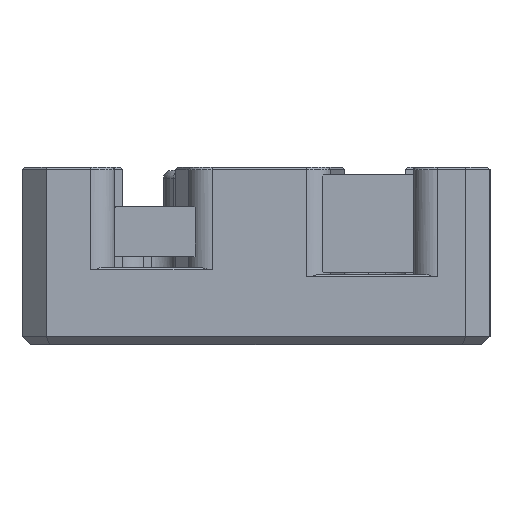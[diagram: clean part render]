
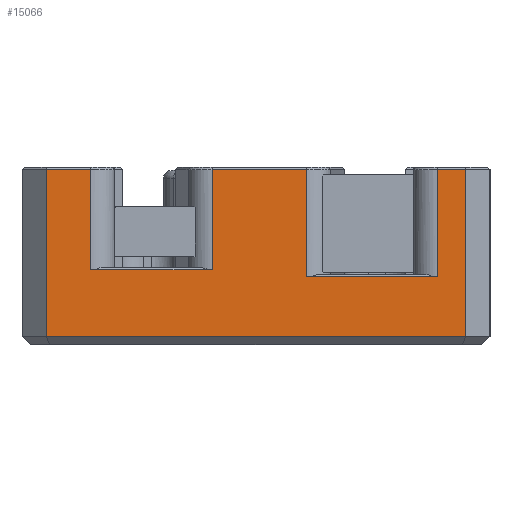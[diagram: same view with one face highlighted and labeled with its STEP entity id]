
A CAD part, left-side view. The second image highlights one B-rep face of the part: STEP entity #15066.
In plain terms, the highlighted planar face has unit normal (-1, 0, 0).
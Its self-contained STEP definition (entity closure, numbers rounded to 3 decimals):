
#199 = CARTESIAN_POINT ( 'NONE',  ( -24., 20.5, 9.3 ) ) ;
#216 = CARTESIAN_POINT ( 'NONE',  ( -24., -22.5, 21.7 ) ) ;
#258 = CARTESIAN_POINT ( 'NONE',  ( -24., 20.5, 21.7 ) ) ;
#260 = CARTESIAN_POINT ( 'NONE',  ( -24., -26., 21.7 ) ) ;
#388 = CARTESIAN_POINT ( 'NONE',  ( -24., -6.229, 21.7 ) ) ;
#1122 = DIRECTION ( 'NONE',  ( 0., -1., 0. ) ) ;
#1124 = CARTESIAN_POINT ( 'NONE',  ( -24., 29., 1. ) ) ;
#1252 = DIRECTION ( 'NONE',  ( 0., 0., -1. ) ) ;
#1254 = CARTESIAN_POINT ( 'NONE',  ( -24., 5.429, 22. ) ) ;
#1325 = DIRECTION ( 'NONE',  ( 0., 0., 1. ) ) ;
#1327 = CARTESIAN_POINT ( 'NONE',  ( -24., 20.5, 22. ) ) ;
#1415 = DIRECTION ( 'NONE',  ( 0., 0., -1. ) ) ;
#1419 = CARTESIAN_POINT ( 'NONE',  ( -24., -22.5, 22. ) ) ;
#1462 = DIRECTION ( 'NONE',  ( 0., 1., 0. ) ) ;
#1464 = CARTESIAN_POINT ( 'NONE',  ( -24., -22.5, 21.7 ) ) ;
#1649 = DIRECTION ( 'NONE',  ( 0., 1., 0. ) ) ;
#1651 = CARTESIAN_POINT ( 'NONE',  ( -24., -6.229, 8.4 ) ) ;
#1745 = DIRECTION ( 'NONE',  ( 0., 1., 0. ) ) ;
#1746 = CARTESIAN_POINT ( 'NONE',  ( -24., 5.429, 21.7 ) ) ;
#1797 = DIRECTION ( 'NONE',  ( 0., 0., 1. ) ) ;
#1799 = CARTESIAN_POINT ( 'NONE',  ( -24., -6.229, 22. ) ) ;
#2186 = DIRECTION ( 'NONE',  ( 0., 1., 0. ) ) ;
#2188 = DIRECTION ( 'NONE',  ( 1., 0., 0. ) ) ;
#2190 = CARTESIAN_POINT ( 'NONE',  ( -24., 29., 22. ) ) ;
#2192 = PLANE ( 'NONE',  #20791 ) ;
#2304 = DIRECTION ( 'NONE',  ( 0., 1., 0. ) ) ;
#2305 = CARTESIAN_POINT ( 'NONE',  ( -24., 29., 9.3 ) ) ;
#2517 = CARTESIAN_POINT ( 'NONE',  ( -24., 26., 1. ) ) ;
#2546 = CARTESIAN_POINT ( 'NONE',  ( -24., -6.229, 8.4 ) ) ;
#2580 = CARTESIAN_POINT ( 'NONE',  ( -24., 26., 21.7 ) ) ;
#2582 = CARTESIAN_POINT ( 'NONE',  ( -24., 5.429, 21.7 ) ) ;
#2587 = CARTESIAN_POINT ( 'NONE',  ( -24., -22.5, 8.4 ) ) ;
#2602 = CARTESIAN_POINT ( 'NONE',  ( -24., -26., 1. ) ) ;
#2619 = CARTESIAN_POINT ( 'NONE',  ( -24., 5.429, 9.3 ) ) ;
#4519 = DIRECTION ( 'NONE',  ( 0., 0., -1. ) ) ;
#4520 = CARTESIAN_POINT ( 'NONE',  ( -24., 26., 22. ) ) ;
#4623 = DIRECTION ( 'NONE',  ( 0., 0., 1. ) ) ;
#4624 = CARTESIAN_POINT ( 'NONE',  ( -24., -26., 22. ) ) ;
#4672 = DIRECTION ( 'NONE',  ( 0., 1., 0. ) ) ;
#4673 = CARTESIAN_POINT ( 'NONE',  ( -24., 26., 21.7 ) ) ;
#10961 = LINE ( 'NONE', #1254, #20871 ) ;
#11115 = LINE ( 'NONE', #1327, #20864 ) ;
#11146 = LINE ( 'NONE', #1799, #20817 ) ;
#11147 = LINE ( 'NONE', #1746, #20818 ) ;
#11169 = LINE ( 'NONE', #2305, #20790 ) ;
#11177 = LINE ( 'NONE', #1419, #20850 ) ;
#11269 = FACE_OUTER_BOUND ( 'NONE', #13193, .T. ) ;
#11314 = LINE ( 'NONE', #1464, #20843 ) ;
#11487 = LINE ( 'NONE', #1124, #20884 ) ;
#11527 = LINE ( 'NONE', #4520, #20663 ) ;
#11601 = LINE ( 'NONE', #4624, #20651 ) ;
#11618 = LINE ( 'NONE', #4673, #20642 ) ;
#11664 = LINE ( 'NONE', #1651, #20834 ) ;
#13193 = EDGE_LOOP ( 'NONE', ( #16635, #16629, #16632, #16627, #16625, #16623, #16621, #16619, #16617, #16615, #16614, #16611 ) ) ;
#14925 = EDGE_CURVE ( 'NONE', #16074, #16415, #11618, .T. ) ;
#14933 = EDGE_CURVE ( 'NONE', #16459, #16072, #11601, .T. ) ;
#14946 = EDGE_CURVE ( 'NONE', #16415, #16296, #11527, .T. ) ;
#15057 = EDGE_CURVE ( 'NONE', #16494, #16124, #11169, .T. ) ;
#15066 = ADVANCED_FACE ( 'NONE', ( #11269 ), #2192, .F. ) ;
#15086 = EDGE_CURVE ( 'NONE', #16349, #15973, #11146, .T. ) ;
#15088 = EDGE_CURVE ( 'NONE', #15973, #16418, #11147, .T. ) ;
#15100 = EDGE_CURVE ( 'NONE', #16427, #16349, #11664, .T. ) ;
#15111 = EDGE_CURVE ( 'NONE', #16072, #16108, #11314, .T. ) ;
#15117 = EDGE_CURVE ( 'NONE', #16108, #16427, #11177, .T. ) ;
#15128 = EDGE_CURVE ( 'NONE', #16124, #16074, #11115, .T. ) ;
#15137 = EDGE_CURVE ( 'NONE', #16418, #16494, #10961, .T. ) ;
#15150 = EDGE_CURVE ( 'NONE', #16296, #16459, #11487, .T. ) ;
#15973 = VERTEX_POINT ( 'NONE', #388 ) ;
#16072 = VERTEX_POINT ( 'NONE', #260 ) ;
#16074 = VERTEX_POINT ( 'NONE', #258 ) ;
#16108 = VERTEX_POINT ( 'NONE', #216 ) ;
#16124 = VERTEX_POINT ( 'NONE', #199 ) ;
#16296 = VERTEX_POINT ( 'NONE', #2517 ) ;
#16349 = VERTEX_POINT ( 'NONE', #2546 ) ;
#16415 = VERTEX_POINT ( 'NONE', #2580 ) ;
#16418 = VERTEX_POINT ( 'NONE', #2582 ) ;
#16427 = VERTEX_POINT ( 'NONE', #2587 ) ;
#16459 = VERTEX_POINT ( 'NONE', #2602 ) ;
#16494 = VERTEX_POINT ( 'NONE', #2619 ) ;
#16611 = ORIENTED_EDGE ( 'NONE', *, *, #15057, .T. ) ;
#16614 = ORIENTED_EDGE ( 'NONE', *, *, #15137, .T. ) ;
#16615 = ORIENTED_EDGE ( 'NONE', *, *, #15088, .T. ) ;
#16617 = ORIENTED_EDGE ( 'NONE', *, *, #15086, .T. ) ;
#16619 = ORIENTED_EDGE ( 'NONE', *, *, #15100, .T. ) ;
#16621 = ORIENTED_EDGE ( 'NONE', *, *, #15117, .T. ) ;
#16623 = ORIENTED_EDGE ( 'NONE', *, *, #15111, .T. ) ;
#16625 = ORIENTED_EDGE ( 'NONE', *, *, #14933, .T. ) ;
#16627 = ORIENTED_EDGE ( 'NONE', *, *, #15150, .T. ) ;
#16629 = ORIENTED_EDGE ( 'NONE', *, *, #14925, .T. ) ;
#16632 = ORIENTED_EDGE ( 'NONE', *, *, #14946, .T. ) ;
#16635 = ORIENTED_EDGE ( 'NONE', *, *, #15128, .T. ) ;
#20642 = VECTOR ( 'NONE', #4672, 1000. ) ;
#20651 = VECTOR ( 'NONE', #4623, 1000. ) ;
#20663 = VECTOR ( 'NONE', #4519, 1000. ) ;
#20790 = VECTOR ( 'NONE', #2304, 1000. ) ;
#20791 = AXIS2_PLACEMENT_3D ( 'NONE', #2190, #2188, #2186 ) ;
#20817 = VECTOR ( 'NONE', #1797, 1000. ) ;
#20818 = VECTOR ( 'NONE', #1745, 1000. ) ;
#20834 = VECTOR ( 'NONE', #1649, 1000. ) ;
#20843 = VECTOR ( 'NONE', #1462, 1000. ) ;
#20850 = VECTOR ( 'NONE', #1415, 1000. ) ;
#20864 = VECTOR ( 'NONE', #1325, 1000. ) ;
#20871 = VECTOR ( 'NONE', #1252, 1000. ) ;
#20884 = VECTOR ( 'NONE', #1122, 1000. ) ;
